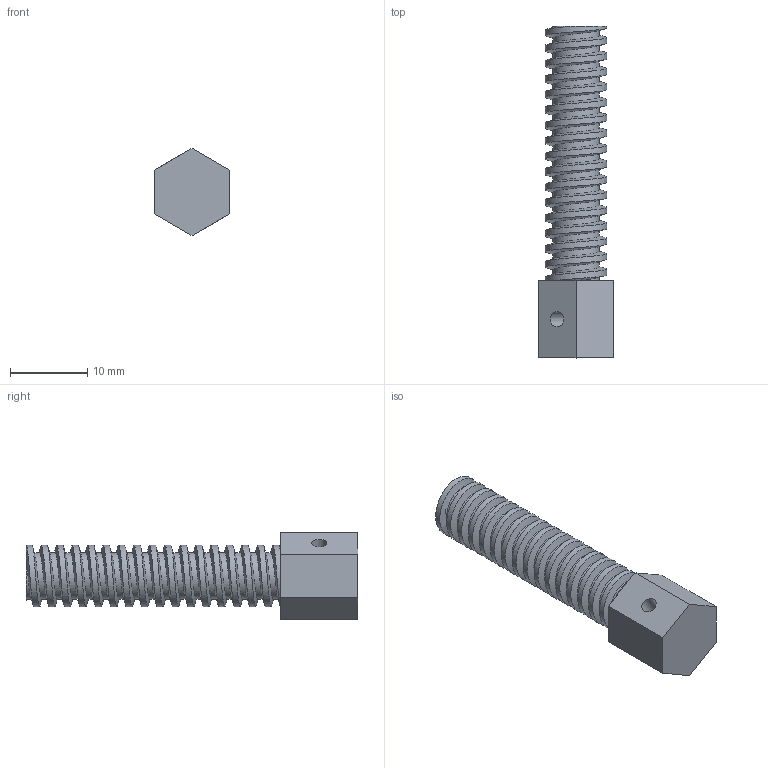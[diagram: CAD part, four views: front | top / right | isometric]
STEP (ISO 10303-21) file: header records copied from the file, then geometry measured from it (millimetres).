
FILE_DESCRIPTION(/* description */ ('STEP AP242 Edition 2','CAx-IF Rec.Pracs.---Representation and Presentation of Product Manufacturing Information (PMI)---4.0---2014-10-13','CAx-IF Rec.Pracs.---3D Tessellated Geometry---0.4---2014-09-14','2;1','CAx-IF Rec.Pracs.---User Defined Attributes---1.5---2016-08-15'),/* implementation_level */ '2;1');
FILE_NAME(/* name */ 'Assembly 1 - Screw',/* time_stamp */ '2026-08-25T12:50:00Z',/* author */ (''),/* organization */ (''),/* preprocessor_version */ 'ST-DEVELOPER v20',/* originating_system */ 'ONSHAPE BY PTC INC, 1.219',/* authorisation */ ' ');
FILE_SCHEMA (('AP242_MANAGED_MODEL_BASED_3D_ENGINEERING_MIM_LF { 1 0 10303 442 3 1 4 }'));
Length unit declared in the file: metre
Products named in the file (1): Screw
Bounding box: 9.8 x 43 x 11.32 mm (x, y, z)
Volume: 1981.6 mm3; surface area: 1776.4 mm2
Topology: 1 solids, 1 shells, 14 faces, 33 edges, 22 vertices
Faces by surface type: plane 9, cylinder 3, bspline 2
Full cylindrical faces by diameter (mm): 2 x1
Entity records: 2570 total; most frequent: CARTESIAN_POINT 2243, ORIENTED_EDGE 64, DIRECTION 56, EDGE_CURVE 32, VERTEX_POINT 22, AXIS2_PLACEMENT_3D 19, LINE 18, VECTOR 18
